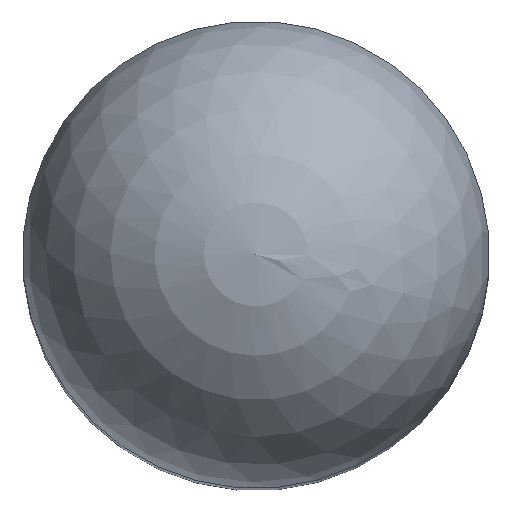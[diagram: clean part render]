
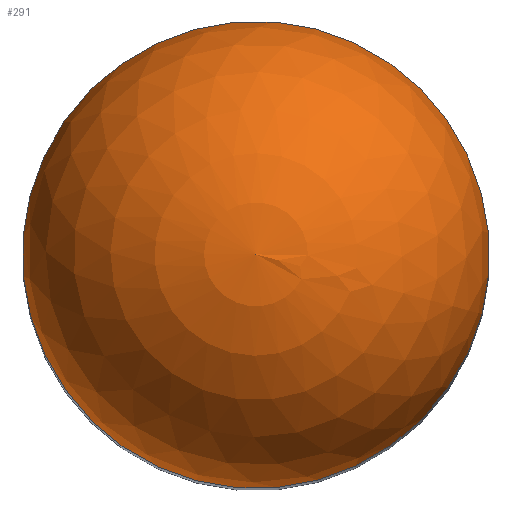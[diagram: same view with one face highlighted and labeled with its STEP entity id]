
A CAD part, top view. The second image highlights one B-rep face of the part: STEP entity #291.
In plain terms, the highlighted spherical face has radius 12 mm.
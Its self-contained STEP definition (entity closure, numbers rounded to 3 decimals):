
#275=CARTESIAN_POINT('',(0.,0.,499.));
#276=DIRECTION('',(0.0,0.0,1.0));
#277=DIRECTION('',(0.967,-0.254,0.));
#278=AXIS2_PLACEMENT_3D('',#275,#276,#277);
#279=SPHERICAL_SURFACE('',#278,12.);
#280=CARTESIAN_POINT('',(11.607,-3.045,499.));
#281=VERTEX_POINT('',#280);
#282=CARTESIAN_POINT('',(0.,0.,499.));
#283=DIRECTION('',(0.,0.,1.0));
#284=DIRECTION('',(-0.967,0.254,0.));
#285=AXIS2_PLACEMENT_3D('',#282,#283,#284);
#286=CIRCLE('',#285,12.);
#287=EDGE_CURVE('',#281,#281,#286,.T.);
#288=ORIENTED_EDGE('',*,*,#287,.T.);
#289=EDGE_LOOP('',(#288));
#290=FACE_OUTER_BOUND('',#289,.T.);
#291=ADVANCED_FACE('',(#290),#279,.T.);
